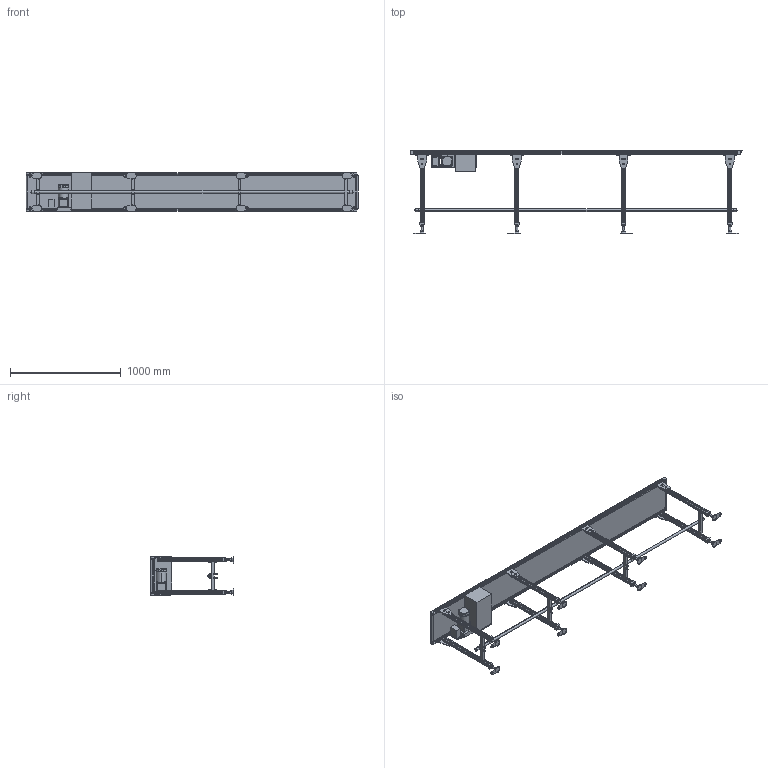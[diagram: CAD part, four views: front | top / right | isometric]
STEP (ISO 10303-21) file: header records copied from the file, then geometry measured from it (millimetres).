
FILE_DESCRIPTION( (''), '2;1');
FILE_NAME ('MKE2-309-300-300-K-180-O.stp','2025-02-04T11:04:42',(''),(''),'spGate 20.6.2 (****-****-****-****)','','');
FILE_SCHEMA (('AUTOMOTIVE_DESIGN'));
Length unit declared in the file: millimetre
Products named in the file (58): NewModel; TEMP_X_T-prt0; TEMP_X_T-prt1; TEMP_X_T-prt2; TEMP_X_T-prt3; TEMP_X_T-prt4; TEMP_X_T-prt5; TEMP_X_T-prt6; TEMP_X_T-prt7; TEMP_X_T-prt8; TEMP_X_T-prt9; TEMP_X_T-prt10; TEMP_X_T-prt11; TEMP_X_T-prt12; TEMP_X_T-prt13; TEMP_X_T-prt14; TEMP_X_T-prt15; TEMP_X_T-prt16; TEMP_X_T-prt17; TEMP_X_T-prt18; TEMP_X_T-prt19; TEMP_X_T-prt20; TEMP_X_T-prt21; TEMP_X_T-prt22; TEMP_X_T-prt23; TEMP_X_T-prt24; TEMP_X_T-prt25; TEMP_X_T-prt26; TEMP_X_T-prt27; TEMP_X_T-prt28; TEMP_X_T-prt29; TEMP_X_T-prt30; TEMP_X_T-prt31; TEMP_X_T-prt32; TEMP_X_T-prt33; TEMP_X_T-prt34; TEMP_X_T-prt35; TEMP_X_T-prt36; TEMP_X_T-prt37; TEMP_X_T-prt38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
Assembly tree (57 placements, depth 2):
  NewModel
    TEMP_X_T-prt0
    TEMP_X_T-prt1
    TEMP_X_T-prt2
    TEMP_X_T-prt3
    TEMP_X_T-prt4
    TEMP_X_T-prt5
    TEMP_X_T-prt6
    TEMP_X_T-prt7
    TEMP_X_T-prt8
    TEMP_X_T-prt9
    TEMP_X_T-prt10
    TEMP_X_T-prt11
    TEMP_X_T-prt12
    TEMP_X_T-prt13
    TEMP_X_T-prt14
    TEMP_X_T-prt15
    TEMP_X_T-prt16
    TEMP_X_T-prt17
    TEMP_X_T-prt18
    TEMP_X_T-prt19
    TEMP_X_T-prt20
    TEMP_X_T-prt21
    TEMP_X_T-prt22
    TEMP_X_T-prt23
    TEMP_X_T-prt24
    TEMP_X_T-prt25
    TEMP_X_T-prt26
    TEMP_X_T-prt27
    TEMP_X_T-prt28
    TEMP_X_T-prt29
    TEMP_X_T-prt30
    TEMP_X_T-prt31
    TEMP_X_T-prt32
    TEMP_X_T-prt33
    TEMP_X_T-prt34
    TEMP_X_T-prt35
    TEMP_X_T-prt36
    TEMP_X_T-prt37
    TEMP_X_T-prt38
    TEMP_X_T-prt39
    TEMP_X_T-prt40
    TEMP_X_T-prt41
    TEMP_X_T-prt42
    TEMP_X_T-prt43
    TEMP_X_T-prt44
    TEMP_X_T-prt45
    TEMP_X_T-prt46
    TEMP_X_T-prt47
    TEMP_X_T-prt48
    TEMP_X_T-prt49
    TEMP_X_T-prt50
    TEMP_X_T-prt51
    TEMP_X_T-prt52
    TEMP_X_T-prt53
    TEMP_X_T-prt54
    TEMP_X_T-prt55
    TEMP_X_T-prt56
Bounding box: 3001.98 x 752.8 x 359.2 mm (x, y, z)
Volume: 27246289.8 mm3; surface area: 8806045 mm2
Topology: 57 solids, 57 shells, 2676 faces, 6709 edges, 4295 vertices
Faces by surface type: plane 1881, cylinder 586, bspline 204, sphere 5
Entity records: 139029 total; most frequent: CARTESIAN_POINT 18144, ORIENTED_EDGE 13398, DIRECTION 13258, COLOUR_RGB 9432, PRESENTATION_STYLE_ASSIGNMENT 9432, STYLED_ITEM 9432, EDGE_CURVE 6699, DRAUGHTING_PRE_DEFINED_CURVE_FONT 6699
